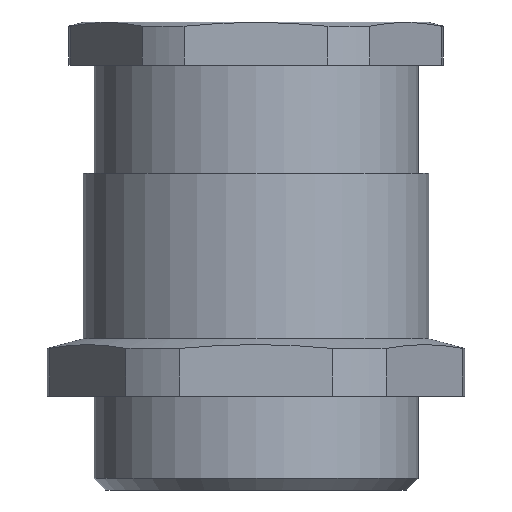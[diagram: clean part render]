
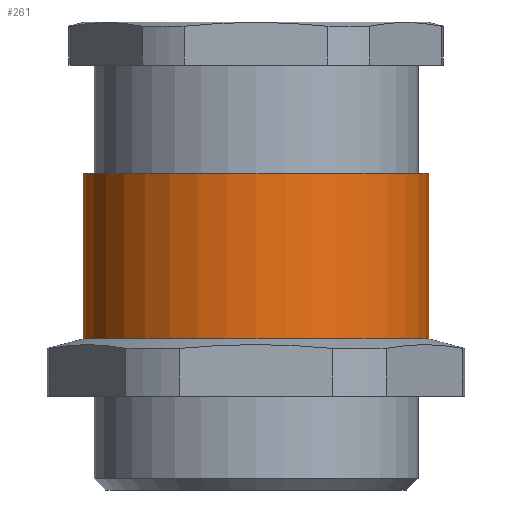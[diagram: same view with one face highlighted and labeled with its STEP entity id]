
A CAD part, left-side view. The second image highlights one B-rep face of the part: STEP entity #261.
In plain terms, the highlighted cylindrical face has radius 12 mm (diameter 24 mm), a partial arc.
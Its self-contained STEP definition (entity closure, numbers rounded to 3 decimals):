
#70 = VERTEX_POINT ( 'NONE', #870 ) ;
#71 = VERTEX_POINT ( 'NONE', #869 ) ;
#73 = EDGE_CURVE ( 'NONE', #71, #74, #868, .T. ) ;
#74 = VERTEX_POINT ( 'NONE', #864 ) ;
#260 = EDGE_CURVE ( 'NONE', #74, #2805, #1221, .T. ) ;
#261 = ADVANCED_FACE ( 'NONE', ( #1216 ), #1215, .T. ) ;
#262 = EDGE_LOOP ( 'NONE', ( #263, #264, #265, #266 ) ) ;
#263 = ORIENTED_EDGE ( 'NONE', *, *, #73, .F. ) ;
#264 = ORIENTED_EDGE ( 'NONE', *, *, #2895, .T. ) ;
#265 = ORIENTED_EDGE ( 'NONE', *, *, #2807, .T. ) ;
#266 = ORIENTED_EDGE ( 'NONE', *, *, #260, .F. ) ;
#864 = CARTESIAN_POINT ( 'NONE',  ( 0., 12., 0. ) ) ;
#865 = DIRECTION ( 'NONE',  ( 0., 0., 1. ) ) ;
#866 = VECTOR ( 'NONE', #865, 1000. ) ;
#867 = CARTESIAN_POINT ( 'NONE',  ( 0., 12., 0. ) ) ;
#868 = LINE ( 'NONE', #867, #866 ) ;
#869 = CARTESIAN_POINT ( 'NONE',  ( 0., 12., -11.5 ) ) ;
#870 = CARTESIAN_POINT ( 'NONE',  ( 0., -12., -11.5 ) ) ;
#1210 = DIRECTION ( 'NONE',  ( 0., -1., 0. ) ) ;
#1211 = DIRECTION ( 'NONE',  ( 0., 0., 1. ) ) ;
#1212 = CARTESIAN_POINT ( 'NONE',  ( 0., 0., 0. ) ) ;
#1213 = AXIS2_PLACEMENT_3D ( 'NONE', #1212, #1211, #1210 ) ;
#1215 = CYLINDRICAL_SURFACE ( 'NONE', #1213, 12. ) ;
#1216 = FACE_OUTER_BOUND ( 'NONE', #262, .T. ) ;
#1217 = DIRECTION ( 'NONE',  ( 0., -1., 0. ) ) ;
#1218 = DIRECTION ( 'NONE',  ( 0., 0., 1. ) ) ;
#1219 = CARTESIAN_POINT ( 'NONE',  ( 0., 0., 0. ) ) ;
#1220 = AXIS2_PLACEMENT_3D ( 'NONE', #1219, #1218, #1217 ) ;
#1221 = CIRCLE ( 'NONE', #1220, 12. ) ;
#2303 = LINE ( 'NONE', #2426, #2425 ) ;
#2304 = CARTESIAN_POINT ( 'NONE',  ( 0., -12., 0. ) ) ;
#2424 = DIRECTION ( 'NONE',  ( 0., 0., 1. ) ) ;
#2425 = VECTOR ( 'NONE', #2424, 1000. ) ;
#2426 = CARTESIAN_POINT ( 'NONE',  ( 0., -12., 0. ) ) ;
#2488 = DIRECTION ( 'NONE',  ( 0., -1., 0. ) ) ;
#2489 = DIRECTION ( 'NONE',  ( 0., 0., 1. ) ) ;
#2490 = CARTESIAN_POINT ( 'NONE',  ( 0., 0., -11.5 ) ) ;
#2491 = AXIS2_PLACEMENT_3D ( 'NONE', #2490, #2489, #2488 ) ;
#2496 = CIRCLE ( 'NONE', #2491, 12. ) ;
#2805 = VERTEX_POINT ( 'NONE', #2304 ) ;
#2807 = EDGE_CURVE ( 'NONE', #70, #2805, #2303, .T. ) ;
#2895 = EDGE_CURVE ( 'NONE', #71, #70, #2496, .T. ) ;
